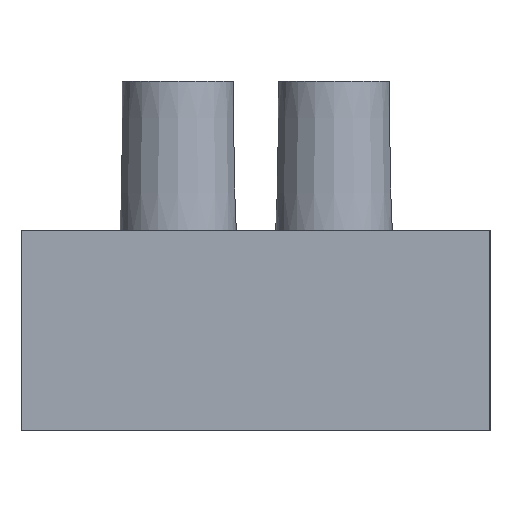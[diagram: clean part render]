
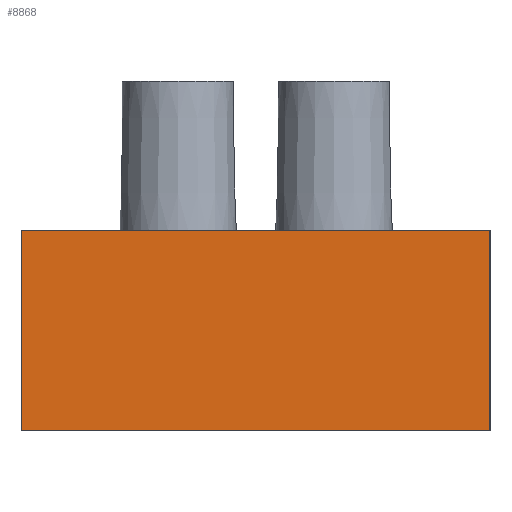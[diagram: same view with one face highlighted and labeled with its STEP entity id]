
A CAD part, left-side view. The second image highlights one B-rep face of the part: STEP entity #8868.
In plain terms, the highlighted planar face has unit normal (-1, 0, 0).
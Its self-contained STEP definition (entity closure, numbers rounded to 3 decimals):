
#314=LINE('',#13070,#1144);
#821=LINE('',#14719,#1651);
#871=LINE('',#14863,#1701);
#872=LINE('',#14865,#1702);
#1144=VECTOR('',#10325,1000.);
#1651=VECTOR('',#12162,1000.);
#1701=VECTOR('',#12308,1000.);
#1702=VECTOR('',#12309,1000.);
#2082=PLANE('',#9756);
#4397=ORIENTED_EDGE('',*,*,#5552,.T.);
#4398=ORIENTED_EDGE('',*,*,#4777,.F.);
#4399=ORIENTED_EDGE('',*,*,#5619,.F.);
#4400=ORIENTED_EDGE('',*,*,#5620,.T.);
#4777=EDGE_CURVE('',#5915,#5916,#314,.T.);
#5552=EDGE_CURVE('',#6393,#5916,#821,.T.);
#5619=EDGE_CURVE('',#6439,#5915,#871,.T.);
#5620=EDGE_CURVE('',#6439,#6393,#872,.T.);
#5915=VERTEX_POINT('',#13069);
#5916=VERTEX_POINT('',#13071);
#6393=VERTEX_POINT('',#14720);
#6439=VERTEX_POINT('',#14864);
#7485=EDGE_LOOP('',(#4397,#4398,#4399,#4400));
#8223=FACE_BOUND('',#7485,.T.);
#8868=ADVANCED_FACE('',(#8223),#2082,.F.);
#9756=AXIS2_PLACEMENT_3D('',#14862,#12306,#12307);
#10325=DIRECTION('',(0.,-1.,0.));
#12162=DIRECTION('',(0.,0.,1.));
#12306=DIRECTION('',(1.,0.,0.));
#12307=DIRECTION('',(0.,0.,-1.));
#12308=DIRECTION('',(0.,0.,1.));
#12309=DIRECTION('',(0.,-1.,0.));
#13069=CARTESIAN_POINT('',(-113.3,21.,4.5));
#13070=CARTESIAN_POINT('',(-113.3,21.,4.5));
#13071=CARTESIAN_POINT('',(-113.3,0.,4.5));
#14719=CARTESIAN_POINT('',(-113.3,0.,-4.5));
#14720=CARTESIAN_POINT('',(-113.3,0.,-4.5));
#14862=CARTESIAN_POINT('',(-113.3,21.,-4.5));
#14863=CARTESIAN_POINT('',(-113.3,21.,-4.5));
#14864=CARTESIAN_POINT('',(-113.3,21.,-4.5));
#14865=CARTESIAN_POINT('',(-113.3,21.,-4.5));
